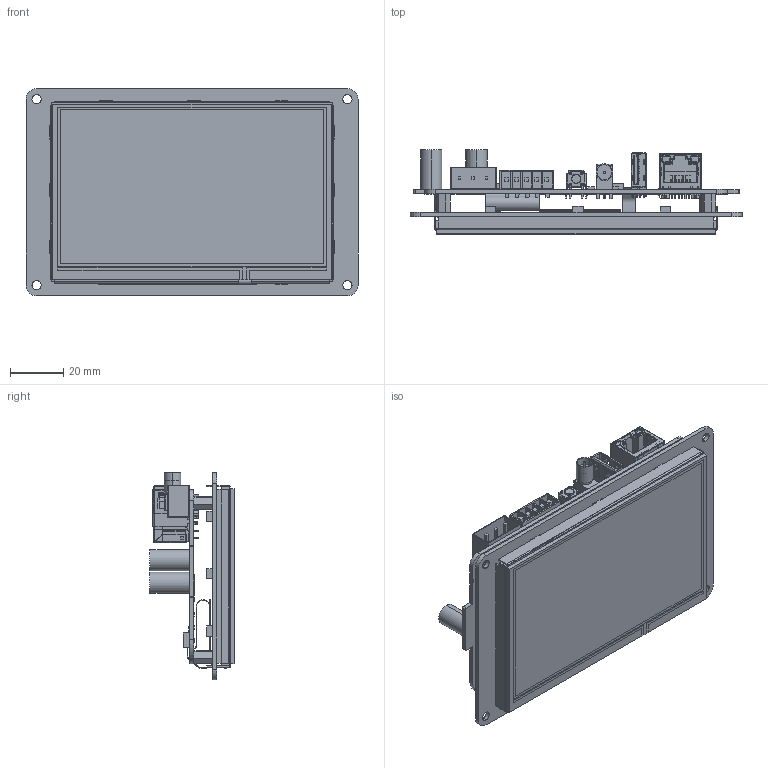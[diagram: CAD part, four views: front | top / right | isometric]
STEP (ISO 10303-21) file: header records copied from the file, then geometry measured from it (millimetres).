
FILE_DESCRIPTION (( 'STEP AP203' ), '1' );
FILE_NAME ('HMI-N4系列（-G -W -E）通用3D.STEP', '2025-09-26T01:32:55', ( 'h''w''s''j''s' ), ( '' ), 'SwSTEP 2.0', 'SolidWorks 2020', '' );
FILE_SCHEMA (( 'CONFIG_CONTROL_DESIGN' ));
Length unit declared in the file: millimetre
Products named in the file (10): HMI-N4系列（-G -W -E）通用3D(2)^HMI-N4系列（-G -W -E）通用3D; D4-PCB__^HMI-N4系列（-G -W -E）通用3D(2)_HMI-N4系列（-G -W -E）通用3D; D4.3____-0^N4-_______HMI-N4系列（-G -W -E）通用3D(2)_HMI-N4系列（-G -W -E）通用3D; N4-______^HMI-N4系列（-G -W -E）通用3D(2)_HMI-N4系列（-G -W -E）通用3D; ____M2.5x5____^N4-_______HMI-N4系列（-G -W -E）通用3D(2)_HMI-N4系列（-G -W -E）通用3D; HMI-N4系列（-G -W -E）通用3D; N4-M2.5x7________^N4-_______HMI-N4系列（-G -W -E）通用3D(2)_HMI-N4系列（-G -W -E）通用3D; D4.3____^N4-_______HMI-N4系列（-G -W -E）通用3D(2)_HMI-N4系列（-G -W -E）通用3D; N4-043006______^N4-_______HMI-N4系列（-G -W -E）通用3D(2)_HMI-N4系列（-G -W -E）通用3D; N4-______-1^N4-_______HMI-N4系列（-G -W -E）通用3D(2)_HMI-N4系列（-G -W -E）通用3D
Assembly tree (15 placements, depth 4):
  HMI-N4系列（-G -W -E）通用3D
    HMI-N4系列（-G -W -E）通用3D(2)^HMI-N4系列（-G -W -E）通用3D
      N4-______^HMI-N4系列（-G -W -E）通用3D(2)_HMI-N4系列（-G -W -E）通用3D
        D4.3____^N4-_______HMI-N4系列（-G -W -E）通用3D(2)_HMI-N4系列（-G -W -E）通用3D
        D4.3____-0^N4-_______HMI-N4系列（-G -W -E）通用3D(2)_HMI-N4系列（-G -W -E）通用3D
        N4-043006______^N4-_______HMI-N4系列（-G -W -E）通用3D(2)_HMI-N4系列（-G -W -E）通用3D
        N4-______-1^N4-_______HMI-N4系列（-G -W -E）通用3D(2)_HMI-N4系列（-G -W -E）通用3D
        N4-M2.5x7________^N4-_______HMI-N4系列（-G -W -E）通用3D(2)_HMI-N4系列（-G -W -E）通用3D  x4
        ____M2.5x5____^N4-_______HMI-N4系列（-G -W -E）通用3D(2)_HMI-N4系列（-G -W -E）通用3D  x4
      D4-PCB__^HMI-N4系列（-G -W -E）通用3D(2)_HMI-N4系列（-G -W -E）通用3D
Bounding box: 125 x 31.73 x 78.15 mm (x, y, z)
Volume: 66994.6 mm3; surface area: 92770.3 mm2
Topology: 58 solids, 58 shells, 2232 faces, 5886 edges, 3792 vertices
Faces by surface type: plane 1584, cylinder 536, bspline 47, cone 28, torus 21, sphere 16
Entity records: 67479 total; most frequent: CARTESIAN_POINT 14359, ORIENTED_EDGE 10930, DIRECTION 10410, EDGE_CURVE 5465, VECTOR 4228, LINE 4228, VERTEX_POINT 3536, AXIS2_PLACEMENT_3D 3091
